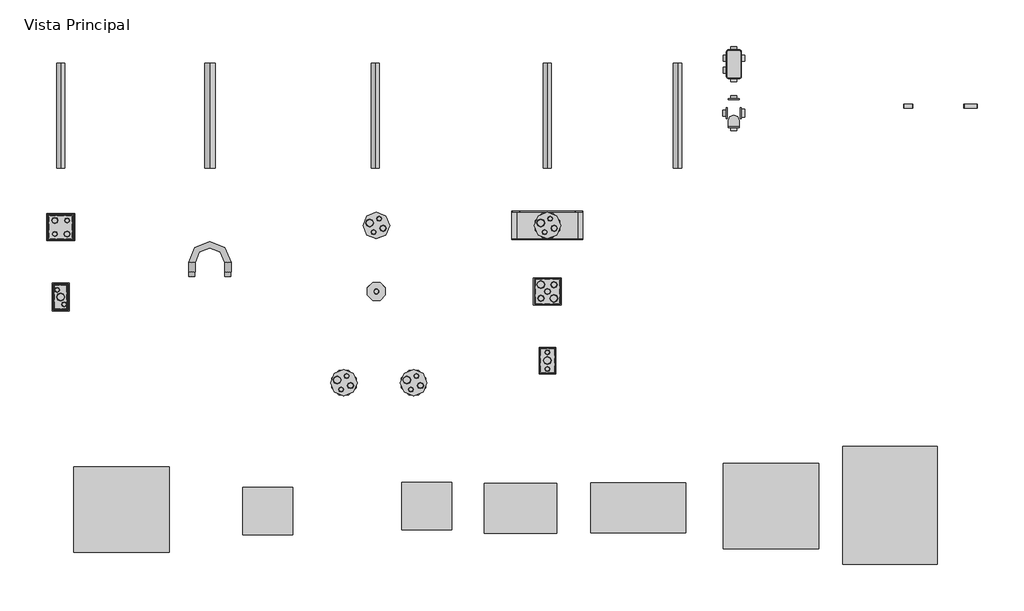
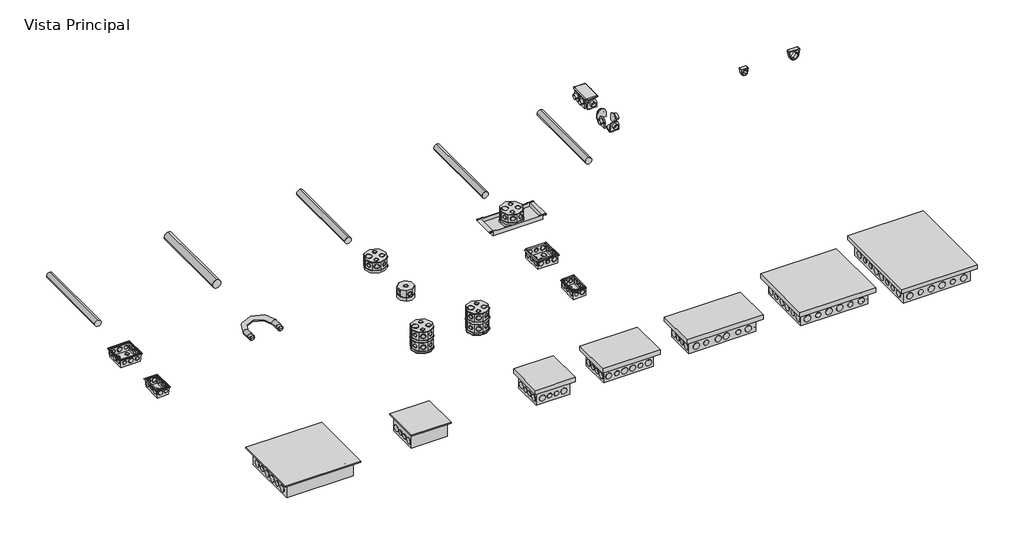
# One storey, incomplete: 31 pipe fittings, 5 cable carrier segments, 2 proxies.
"""IFC4 building model written with IfcOpenShell, lengths in millimetres."""

from ifc_helpers import new_model, si_unit, point, frame, frame_2d, origin, place, context, project, spatial, circle_curve, trimmed, segment, composite_curve, outline, extrude, transform, mapped, element, save
from components import var_dc7f8485, var_9dea6c72, leve_d32ba077, pipe_fitting_fdc74c3c, leve_6d39340a, leve_111e3c81, leve_2e341f38, var_cd2047e7, var_4e7530ae, var_c04d02d2, var_ea92140c, var_f98750ab, var_2987dd68, var_ca1eaef3, var_74e7e824, var_4c39e476, var_dc263d33, var_e7d891e8, var_2f03b29f, var_b8f45ad4, var_01f370bb, var_af95b0c3, var_2e84a725

model = new_model("IFC4")

# Units and contexts
model_context = context("Model", 3, world=origin())
ifc_project = project(units=[si_unit("LENGTHUNIT", "METRE", prefix="MILLI")], contexts=[model_context])

# Site, building, storey
site = spatial("IfcSite", under=ifc_project)
building = spatial("IfcBuilding", under=site)
storey = spatial("IfcBuildingStorey", under=building, Name="Vista Principal", Elevation=0.0)

# Proxies
placement = place(None, origin())
var_shape = var_dc7f8485(model_context)
element("IfcBuildingElementProxy", 1, Name="AmancoWavin_ConexõesdoConduite_LinhaEletricaElectroAmancoAbraçadeira : Var.", ObjectType="AmancoWavin_ConexõesdoConduite_LinhaEletricaElectroAmancoAbraçadeira : Var.", at=placement, inside=storey, context=model_context, shape_type="MappedRepresentation", body=[
    mapped(var_shape, transform((2133.0471287, 514.3970638, 0.0), x_axis=(-1.0, 0.0, 0.0), y_axis=(0.0, -1.0, 0.0), z_axis=(0.0, 0.0, 1.0))),
])
var_2_shape = var_9dea6c72(model_context)
element("IfcBuildingElementProxy", 2, Name="AmancoWavin_ConexõesdoConduite_LinhaEletricaElectroAmancoAbraçadeira : Var.", ObjectType="AmancoWavin_ConexõesdoConduite_LinhaEletricaElectroAmancoAbraçadeira : Var.", at=placement, inside=storey, context=model_context, shape_type="MappedRepresentation", body=[
    mapped(var_2_shape, transform((2383.0471287, 514.3970638, 0.0), x_axis=(1.0, 0.0, 0.0), y_axis=(0.0, 1.0, 0.0), z_axis=(0.0, 0.0, 1.0))),
])

# Cable carrier segments
element("IfcCableCarrierSegment", 3, ObjectType="Eletroduto Corrugado Serie Leve", at=placement, inside=storey, context=model_context, shape_type="SweptSolid", body=[
    extrude(outline(composite_curve([segment(trimmed(circle_curve(frame_2d((0.0, -0.3170525)), 16.0), [point((0.0, -16.3170525))], [point((-16.0, -0.3170525))], False, "CARTESIAN"), True, "CONTINUOUS"), segment(trimmed(circle_curve(frame_2d((0.0, -0.3170525)), 16.0), [point((-16.0, -0.3170525))], [point((0.0, 15.6829475))], False, "CARTESIAN"), True, "CONTINUOUS"), segment(trimmed(circle_curve(frame_2d((0.0, -0.3170525)), 16.0), [point((0.0, 15.6829475))], [point((16.0, -0.3170525))], False, "CARTESIAN"), True, "CONTINUOUS"), segment(trimmed(circle_curve(frame_2d((0.0, -0.3170525)), 16.0), [point((16.0, -0.3170525))], [point((0.0, -16.3170525))], False, "CARTESIAN"), True, "CONTINUOUS")], self_intersect=False)), frame((0.0, 266.4085904, 0.0), z_axis=(0.0, 1.0, 0.0), x_axis=(0.0, 0.0, 1.0)), (0.0, 0.0, 1.0), 420.0),
])
element("IfcCableCarrierSegment", 4, ObjectType="Eletroduto Corrugado Serie Reforçada", at=placement, inside=storey, context=model_context, shape_type="SweptSolid", body=[
    extrude(outline(composite_curve([segment(trimmed(circle_curve(frame_2d((0.0, 689.4743854)), 16.0), [point((0.0, 673.4743854))], [point((-16.0, 689.4743854))], False, "CARTESIAN"), True, "CONTINUOUS"), segment(trimmed(circle_curve(frame_2d((0.0, 689.4743854)), 16.0), [point((-16.0, 689.4743854))], [point((0.0, 705.4743854))], False, "CARTESIAN"), True, "CONTINUOUS"), segment(trimmed(circle_curve(frame_2d((0.0, 689.4743854)), 16.0), [point((0.0, 705.4743854))], [point((16.0, 689.4743854))], False, "CARTESIAN"), True, "CONTINUOUS"), segment(trimmed(circle_curve(frame_2d((0.0, 689.4743854)), 16.0), [point((16.0, 689.4743854))], [point((0.0, 673.4743854))], False, "CARTESIAN"), True, "CONTINUOUS")], self_intersect=False)), frame((0.0, 266.4085904, 0.0), z_axis=(0.0, 1.0, 0.0), x_axis=(0.0, 0.0, 1.0)), (0.0, 0.0, 1.0), 420.0),
])
element("IfcCableCarrierSegment", 5, ObjectType="Eletroduto Roscavel", at=placement, inside=storey, context=model_context, shape_type="SweptSolid", body=[
    extrude(outline(composite_curve([segment(trimmed(circle_curve(frame_2d((0.0, -661.5797353)), 21.1), [point((0.0, -682.6797353))], [point((-21.1, -661.5797353))], False, "CARTESIAN"), True, "CONTINUOUS"), segment(trimmed(circle_curve(frame_2d((0.0, -661.5797353)), 21.1), [point((-21.1, -661.5797353))], [point((0.0, -640.4797353))], False, "CARTESIAN"), True, "CONTINUOUS"), segment(trimmed(circle_curve(frame_2d((0.0, -661.5797353)), 21.1), [point((0.0, -640.4797353))], [point((21.1, -661.5797353))], False, "CARTESIAN"), True, "CONTINUOUS"), segment(trimmed(circle_curve(frame_2d((0.0, -661.5797353)), 21.1), [point((21.1, -661.5797353))], [point((0.0, -682.6797353))], False, "CARTESIAN"), True, "CONTINUOUS")], self_intersect=False)), frame((0.0, 266.4085904, 0.0), z_axis=(0.0, 1.0, 0.0), x_axis=(0.0, 0.0, 1.0)), (0.0, 0.0, 1.0), 420.0),
])
element("IfcCableCarrierSegment", 6, ObjectType="Eletroduto Soldável", at=placement, inside=storey, context=model_context, shape_type="SweptSolid", body=[
    extrude(outline(composite_curve([segment(trimmed(circle_curve(frame_2d((0.0, -1258.8075581)), 16.0), [point((0.0, -1274.8075581))], [point((-16.0, -1258.8075581))], False, "CARTESIAN"), True, "CONTINUOUS"), segment(trimmed(circle_curve(frame_2d((0.0, -1258.8075581)), 16.0), [point((-16.0, -1258.8075581))], [point((0.0, -1242.8075581))], False, "CARTESIAN"), True, "CONTINUOUS"), segment(trimmed(circle_curve(frame_2d((0.0, -1258.8075581)), 16.0), [point((0.0, -1242.8075581))], [point((16.0, -1258.8075581))], False, "CARTESIAN"), True, "CONTINUOUS"), segment(trimmed(circle_curve(frame_2d((0.0, -1258.8075581)), 16.0), [point((16.0, -1258.8075581))], [point((0.0, -1274.8075581))], False, "CARTESIAN"), True, "CONTINUOUS")], self_intersect=False)), frame((0.0, 266.4085904, 0.0), z_axis=(0.0, 1.0, 0.0), x_axis=(0.0, 0.0, 1.0)), (0.0, 0.0, 1.0), 420.0),
])
element("IfcCableCarrierSegment", 7, ObjectType="Eletroduto ElectroAmanco", at=placement, inside=storey, context=model_context, shape_type="SweptSolid", body=[
    extrude(outline(composite_curve([segment(trimmed(circle_curve(frame_2d((0.0, 1209.8329149)), 16.45), [point((0.0, 1193.3829149))], [point((-16.45, 1209.8329149))], False, "CARTESIAN"), True, "CONTINUOUS"), segment(trimmed(circle_curve(frame_2d((0.0, 1209.8329149)), 16.45), [point((-16.45, 1209.8329149))], [point((0.0, 1226.2829149))], False, "CARTESIAN"), True, "CONTINUOUS"), segment(trimmed(circle_curve(frame_2d((0.0, 1209.8329149)), 16.45), [point((0.0, 1226.2829149))], [point((16.45, 1209.8329149))], False, "CARTESIAN"), True, "CONTINUOUS"), segment(trimmed(circle_curve(frame_2d((0.0, 1209.8329149)), 16.45), [point((16.45, 1209.8329149))], [point((0.0, 1193.3829149))], False, "CARTESIAN"), True, "CONTINUOUS")], self_intersect=False)), frame((0.0, 266.4085904, 0.0), z_axis=(0.0, 1.0, 0.0), x_axis=(0.0, 0.0, 1.0)), (0.0, 0.0, 1.0), 420.0),
])

# Pipe fittings
leve_shape = leve_d32ba077(model_context)
element("IfcPipeFitting", 8, ObjectType="AmancoWavin_ConexõesdoConduite_CorrugadoCaixaOctogonalcomProlongamentoReforçada : Reforçada", at=placement, inside=storey, context=model_context, shape_type="MappedRepresentation", body=[
    mapped(leve_shape, transform((154.3674496, -592.875081, 0.0), x_axis=(1.0, 0.0, 0.0), y_axis=(0.0, 1.0, 0.0), z_axis=(0.0, 0.0, 1.0))),
])
pipe_fitting_shape = pipe_fitting_fdc74c3c(model_context)
element("IfcPipeFitting", 9, ObjectType="AmancoWavin_ConexõesdoConduite_LinhaEletricaCorrugadoCaixaOctogonalcomSuporte4x4 : Reforçada 250mm", at=placement, inside=storey, context=model_context, shape_type="MappedRepresentation", body=[
    mapped(pipe_fitting_shape, transform((689.4743854, 37.0653638, 0.0), x_axis=(1.0, 0.0, 0.0), y_axis=(0.0, 1.0, 0.0), z_axis=(0.0, 0.0, 1.0))),
])
leve_2_shape = leve_6d39340a(model_context)
element("IfcPipeFitting", 10, ObjectType="AmancoWavin_ConexõesdoConduite_CorrugadoZNãoUsarProlongamento : Reforçada", at=placement, inside=storey, context=model_context, shape_type="MappedRepresentation", body=[
    mapped(leve_2_shape, transform((154.3674496, -592.875081, 0.0), x_axis=(1.0, 0.0, 0.0), y_axis=(0.0, 1.0, 0.0), z_axis=(0.0, 0.0, 1.0))),
])
leve_3_shape = leve_111e3c81(model_context)
element("IfcPipeFitting", 11, ObjectType="AmancoWavin_ConexõesdoConduite_LinhaEletricaCorrugadoCaixaOctogonal3x3 : Leve", at=placement, inside=storey, context=model_context, shape_type="MappedRepresentation", body=[
    mapped(leve_3_shape, transform((4.6829475, -227.2892468, 0.0), x_axis=(1.0, 0.0, 0.0), y_axis=(0.0, 1.0, 0.0), z_axis=(0.0, 0.0, 1.0))),
])
leve_4_shape = leve_2e341f38(model_context)
element("IfcPipeFitting", 12, ObjectType="AmancoWavin_ConexõesdoConduite_LinhaEletricaCorrugadoCaixaOctogonal4x4 : Leve", at=placement, inside=storey, context=model_context, shape_type="MappedRepresentation", body=[
    mapped(leve_4_shape, transform((4.6829475, 37.0653638, 0.0), x_axis=(1.0, 0.0, 0.0), y_axis=(0.0, 1.0, 0.0), z_axis=(0.0, 0.0, 1.0))),
])
element("IfcPipeFitting", 13, ObjectType="AmancoWavin_ConexõesdoConduite_CorrugadoZNãoUsarProlongamento : Leve", at=placement, inside=storey, context=model_context, shape_type="MappedRepresentation", body=[
    mapped(leve_2_shape, transform((-125.3170525, -592.875081, 0.0), x_axis=(1.0, 0.0, 0.0), y_axis=(0.0, 1.0, 0.0), z_axis=(0.0, 0.0, 1.0))),
])
element("IfcPipeFitting", 14, ObjectType="AmancoWavin_ConexõesdoConduite_CorrugadoCaixaOctogonalcomProlongamentoLeve : Leve", at=placement, inside=storey, context=model_context, shape_type="MappedRepresentation", body=[
    mapped(leve_shape, transform((-125.3170525, -592.875081, 0.0), x_axis=(1.0, 0.0, 0.0), y_axis=(0.0, 1.0, 0.0), z_axis=(0.0, 0.0, 1.0))),
])
var_3_shape = var_cd2047e7(model_context)
element("IfcPipeFitting", 15, ObjectType="AmancoWavin_ConexõesdoConduite_LinhaEletricaRoscavelCurva180 : Var.", at=placement, inside=storey, context=model_context, shape_type="MappedRepresentation", body=[
    mapped(var_3_shape, transform((-661.5797353, -167.7915146, 0.0), x_axis=(1.0, 0.0, 0.0), y_axis=(0.0, 1.0, 0.0), z_axis=(0.0, 0.0, 1.0))),
])
var_4_shape = var_4e7530ae(model_context)
element("IfcPipeFitting", 16, ObjectType="AmancoWavin_ConexõesdoConduite_LinhaEletricaSoldRoscCaixa4x4 : var.", at=placement, inside=storey, context=model_context, shape_type="MappedRepresentation", body=[
    mapped(var_4_shape, transform((-1258.8075581, 29.947563, 0.0), x_axis=(1.0, 0.0, 0.0), y_axis=(0.0, 0.0, -1.0), z_axis=(0.0, 1.0, 0.0))),
])
var_5_shape = var_c04d02d2(model_context)
element("IfcPipeFitting", 17, ObjectType="AmancoWavin_ConexõesdoConduite_LinhaEletricaeZNãoUsarElectroAmancoAdaptador : var.", at=placement, inside=storey, context=model_context, shape_type="MappedRepresentation", body=[
    mapped(var_5_shape, transform((1435.5214263, 652.7666349, -14.65), x_axis=(-1.0, 0.0, 0.0), y_axis=(0.0, 1.0, 0.0), z_axis=(0.0, 0.0, -1.0))),
])
element("IfcPipeFitting", 18, ObjectType="AmancoWavin_ConexõesdoConduite_LinhaEletricaeZNãoUsarElectroAmancoAdaptador : var.", at=placement, inside=storey, context=model_context, shape_type="MappedRepresentation", body=[
    mapped(var_5_shape, transform((1435.5214263, 736.9166349, 8.5), x_axis=(-1.0, 0.0, 0.0), y_axis=(0.0, 0.0, 1.0), z_axis=(0.0, 1.0, 0.0))),
])
element("IfcPipeFitting", 19, ObjectType="AmancoWavin_ConexõesdoConduite_LinhaEletricaeZNãoUsarElectroAmancoAdaptador : var.", at=placement, inside=storey, context=model_context, shape_type="MappedRepresentation", body=[
    mapped(var_5_shape, transform((1409.3714263, 707.2666349, 8.5), x_axis=(0.0, -1.0, 0.0), y_axis=(0.0, 0.0, 1.0), z_axis=(-1.0, 0.0, 0.0))),
])
element("IfcPipeFitting", 20, ObjectType="AmancoWavin_ConexõesdoConduite_LinhaEletricaeZNãoUsarElectroAmancoAdaptador : var.", at=placement, inside=storey, context=model_context, shape_type="MappedRepresentation", body=[
    mapped(var_5_shape, transform((1409.3714263, 659.2666349, 8.5), x_axis=(0.0, -1.0, 0.0), y_axis=(0.0, 0.0, 1.0), z_axis=(-1.0, 0.0, 0.0))),
])
element("IfcPipeFitting", 21, ObjectType="AmancoWavin_ConexõesdoConduite_LinhaEletricaeZNãoUsarElectroAmancoAdaptador : var.", at=placement, inside=storey, context=model_context, shape_type="MappedRepresentation", body=[
    mapped(var_5_shape, transform((1461.6714263, 707.2666349, 8.5), x_axis=(0.0, 1.0, 0.0), y_axis=(0.0, 0.0, 1.0), z_axis=(1.0, 0.0, 0.0))),
])
element("IfcPipeFitting", 22, ObjectType="AmancoWavin_ConexõesdoConduite_LinhaEletricaeZNãoUsarElectroAmancoAdaptador : var.", at=placement, inside=storey, context=model_context, shape_type="MappedRepresentation", body=[
    mapped(var_5_shape, transform((1434.3722986, 456.7036238, -14.65), x_axis=(-1.0, 0.0, 0.0), y_axis=(0.0, 1.0, 0.0), z_axis=(0.0, 0.0, -1.0))),
])
element("IfcPipeFitting", 23, ObjectType="AmancoWavin_ConexõesdoConduite_LinhaEletricaeZNãoUsarElectroAmancoAdaptador : var.", at=placement, inside=storey, context=model_context, shape_type="MappedRepresentation", body=[
    mapped(var_5_shape, transform((1434.3722986, 540.8536238, 8.5), x_axis=(-1.0, 0.0, 0.0), y_axis=(0.0, 0.0, 1.0), z_axis=(0.0, 1.0, 0.0))),
])
var_6_shape = var_ea92140c(model_context)
element("IfcPipeFitting", 24, ObjectType="AmancoWavin_ConexõesdoConduite_LinhaEletricaeZNãoUsarElectroAmancoTampaCega : var.", at=placement, inside=storey, context=model_context, shape_type="MappedRepresentation", body=[
    mapped(var_6_shape, transform((1435.5214263, 683.2666349, 31.5), x_axis=(-1.0, 0.0, 0.0), y_axis=(0.0, -1.0, 0.0), z_axis=(0.0, 0.0, 1.0))),
])
var_7_shape = var_f98750ab(model_context)
element("IfcPipeFitting", 25, ObjectType="AmancoWavin_ConexõesdoConduite_LinhaEletricaCorrugadoCaixa4x2 : var.", at=placement, inside=storey, context=model_context, shape_type="MappedRepresentation", body=[
    mapped(var_7_shape, transform((689.4743854, -504.108474, 0.0), x_axis=(1.0, 0.0, 0.0), y_axis=(0.0, 0.0, -1.0), z_axis=(0.0, 1.0, 0.0))),
])
var_8_shape = var_2987dd68(model_context)
element("IfcPipeFitting", 26, ObjectType="AmancoWavin_ConexõesdoConduite_LinhaEletricaCorrugadoCaixa4x4 : var.", at=placement, inside=storey, context=model_context, shape_type="MappedRepresentation", body=[
    mapped(var_8_shape, transform((689.4743854, -227.2892468, 0.0), x_axis=(1.0, 0.0, 0.0), y_axis=(0.0, 0.0, -1.0), z_axis=(0.0, 1.0, 0.0))),
])
var_9_shape = var_ca1eaef3(model_context)
element("IfcPipeFitting", 27, ObjectType="AmancoWavin_ConexõesdoConduite_LinhaEletricaSoldRoscCaixa4x2 : var.", at=placement, inside=storey, context=model_context, shape_type="MappedRepresentation", body=[
    mapped(var_9_shape, transform((-1258.8075581, -249.5583029, 0.0), x_axis=(1.0, 0.0, 0.0), y_axis=(0.0, 0.0, -1.0), z_axis=(0.0, 1.0, 0.0))),
])
var_10_shape = var_74e7e824(model_context)
element("IfcPipeFitting", 28, ObjectType="AmancoWavin_ConexõesdoConduite_LinhaEletricaCorrugadoCaixadePassagemdeParedeGrande : var.", at=placement, inside=storey, context=model_context, shape_type="MappedRepresentation", body=[
    mapped(var_10_shape, transform((-1014.8075581, -1101.0241855, 45.8424128), x_axis=(1.0, 0.0, 0.0), y_axis=(0.0, 0.0, -1.0), z_axis=(0.0, 1.0, 0.0))),
])
var_11_shape = var_4c39e476(model_context)
element("IfcPipeFitting", 29, ObjectType="AmancoWavin_ConexõesdoConduite_LinhaEletricaCorrugadoCaixadePassagemdeParedePequena : var.", at=placement, inside=storey, context=model_context, shape_type="MappedRepresentation", body=[
    mapped(var_11_shape, transform((-428.7980332, -1105.8655907, 37.2120642), x_axis=(1.0, 0.0, 0.0), y_axis=(0.0, 0.0, -1.0), z_axis=(0.0, 1.0, 0.0))),
])
var_12_shape = var_dc263d33(model_context)
element("IfcPipeFitting", 30, ObjectType="AmancoWavin_ConexõesdoConduite_LinhaEletricaCorrugadoCuadroDistribucao4D : var.", at=placement, inside=storey, context=model_context, shape_type="MappedRepresentation", body=[
    mapped(var_12_shape, transform((207.0170118, -1085.7672354, 41.5272385), x_axis=(1.0, 0.0, 0.0), y_axis=(0.0, 0.0, -1.0), z_axis=(0.0, 1.0, 0.0))),
])
var_13_shape = var_e7d891e8(model_context)
element("IfcPipeFitting", 31, ObjectType="AmancoWavin_ConexõesdoConduite_LinhaEletricaCorrugadoCuadroDistribucao8D : var.", at=placement, inside=storey, context=model_context, shape_type="MappedRepresentation", body=[
    mapped(var_13_shape, transform((581.1165211, -1095.4667175, 50.1575872), x_axis=(1.0, 0.0, 0.0), y_axis=(0.0, 0.0, -1.0), z_axis=(0.0, 1.0, 0.0))),
])
var_14_shape = var_2f03b29f(model_context)
element("IfcPipeFitting", 32, ObjectType="AmancoWavin_ConexõesdoConduite_LinhaEletricaCorrugadoCuadroDistribucao12D : var.", at=placement, inside=storey, context=model_context, shape_type="MappedRepresentation", body=[
    mapped(var_14_shape, transform((1053.1193556, -1094.6088532, 54.4727615), x_axis=(1.0, 0.0, 0.0), y_axis=(0.0, 0.0, -1.0), z_axis=(0.0, 1.0, 0.0))),
])
var_15_shape = var_b8f45ad4(model_context)
element("IfcPipeFitting", 33, ObjectType="AmancoWavin_ConexõesdoConduite_LinhaEletricaCorrugadoCuadroDistribucao24D : var.", at=placement, inside=storey, context=model_context, shape_type="MappedRepresentation", body=[
    mapped(var_15_shape, transform((1584.3372526, -1085.7045399, 50.1575872), x_axis=(1.0, 0.0, 0.0), y_axis=(0.0, 0.0, -1.0), z_axis=(0.0, 1.0, 0.0))),
])
var_16_shape = var_01f370bb(model_context)
element("IfcPipeFitting", 34, ObjectType="AmancoWavin_ConexõesdoConduite_LinhaEletricaCorrugadoCuadroDistribucao36D : var.", at=placement, inside=storey, context=model_context, shape_type="MappedRepresentation", body=[
    mapped(var_16_shape, transform((2060.1140107, -1083.4850634, 45.8424128), x_axis=(1.0, 0.0, 0.0), y_axis=(0.0, 0.0, -1.0), z_axis=(0.0, 1.0, 0.0))),
])
var_17_shape = var_af95b0c3(model_context)
element("IfcPipeFitting", 35, ObjectType="AmancoWavin_ConexõesdoConduite_LinhaEletricaeZNãoUsarElectroAmancoAdaptador : var.", at=placement, inside=storey, context=model_context, shape_type="MappedRepresentation", body=[
    mapped(var_17_shape, transform((1435.5214263, 629.6166349, 8.5), x_axis=(-1.0, 0.0, 0.0), y_axis=(0.0, 0.0, -1.0), z_axis=(0.0, -1.0, 0.0))),
])
element("IfcPipeFitting", 36, ObjectType="AmancoWavin_ConexõesdoConduite_LinhaEletricaeZNãoUsarElectroAmancoAdaptador : var.", at=placement, inside=storey, context=model_context, shape_type="MappedRepresentation", body=[
    mapped(var_17_shape, transform((1408.2222986, 487.2036238, 8.5), x_axis=(0.0, 1.0, 0.0), y_axis=(0.0, 0.0, -1.0), z_axis=(-1.0, 0.0, 0.0))),
])
element("IfcPipeFitting", 37, ObjectType="AmancoWavin_ConexõesdoConduite_LinhaEletricaeZNãoUsarElectroAmancoAdaptador : var.", at=placement, inside=storey, context=model_context, shape_type="MappedRepresentation", body=[
    mapped(var_17_shape, transform((1434.3722986, 433.5536238, 8.5), x_axis=(-1.0, 0.0, 0.0), y_axis=(0.0, 0.0, -1.0), z_axis=(0.0, -1.0, 0.0))),
])
var_18_shape = var_2e84a725(model_context)
element("IfcPipeFitting", 38, ObjectType="AmancoWavin_ConexõesdoConduite_LinhaEletricaeZNãoUsarElectroAmancoAdaptador : var.", at=placement, inside=storey, context=model_context, shape_type="MappedRepresentation", body=[
    mapped(var_18_shape, transform((1460.5222986, 487.2036238, 8.5), x_axis=(0.0, 1.0, 0.0), y_axis=(0.0, 0.0, 1.0), z_axis=(1.0, 0.0, 0.0))),
])

save(model, "model.ifc")
